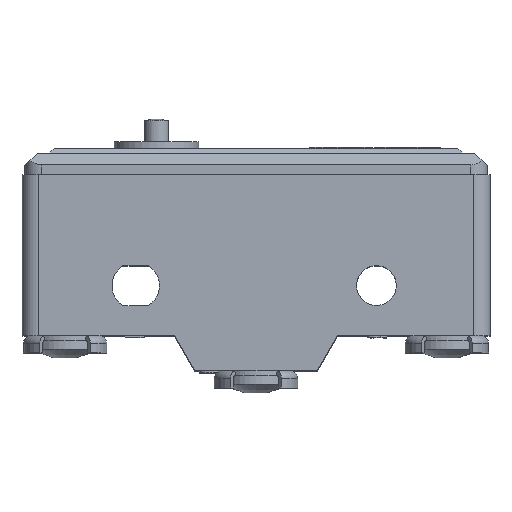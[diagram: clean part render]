
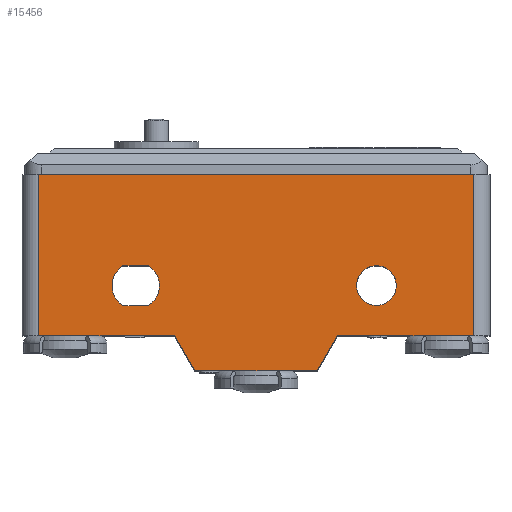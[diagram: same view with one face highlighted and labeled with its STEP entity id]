
A CAD part, top view. The second image highlights one B-rep face of the part: STEP entity #15456.
In plain terms, the highlighted planar face has unit normal (0, 0, 1).
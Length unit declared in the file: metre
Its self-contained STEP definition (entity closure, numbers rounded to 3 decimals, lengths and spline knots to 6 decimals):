
#10482=CARTESIAN_POINT('',(0.005537,-0.008608,0.05825));
#10483=VERTEX_POINT('',#10482);
#10486=CARTESIAN_POINT('',(0.003401,-0.012308,0.05825));
#10487=DIRECTION('',(0.5,0.866,0.));
#10488=VECTOR('',#10487,1.);
#10489=LINE('',#10486,#10488);
#10490=CARTESIAN_POINT('',(0.003401,-0.012308,0.05825));
#10491=VERTEX_POINT('',#10490);
#10492=EDGE_CURVE('',#10491,#10483,#10489,.T.);
#11550=CARTESIAN_POINT('',(-0.009527,-0.012308,0.05825));
#11551=VERTEX_POINT('',#11550);
#11554=CARTESIAN_POINT('',(-0.011663,-0.008608,0.05825));
#11555=DIRECTION('',(0.5,-0.866,0.));
#11556=VECTOR('',#11555,1.);
#11557=LINE('',#11554,#11556);
#11558=CARTESIAN_POINT('',(-0.011663,-0.008608,0.05825));
#11559=VERTEX_POINT('',#11558);
#11560=EDGE_CURVE('',#11559,#11551,#11557,.T.);
#11637=CARTESIAN_POINT('',(-0.026013,0.008392,0.05825));
#11638=VERTEX_POINT('',#11637);
#11647=CARTESIAN_POINT('',(-0.026013,-0.008608,0.05825));
#11648=VERTEX_POINT('',#11647);
#11651=CARTESIAN_POINT('',(-0.026013,-0.004008,0.05825));
#11652=DIRECTION('',(0.,-1.,0.));
#11653=VECTOR('',#11652,1.);
#11654=LINE('',#11651,#11653);
#11655=EDGE_CURVE('',#11638,#11648,#11654,.T.);
#13052=CARTESIAN_POINT('',(-0.027763,-0.008608,0.05825));
#13053=DIRECTION('',(1.,0.,0.));
#13054=VECTOR('',#13053,1.);
#13055=LINE('',#13052,#13054);
#13056=EDGE_CURVE('',#11648,#11559,#13055,.T.);
#13162=CARTESIAN_POINT('',(0.019887,-0.008608,0.05825));
#13163=VERTEX_POINT('',#13162);
#13181=CARTESIAN_POINT('',(0.019887,0.008392,0.05825));
#13182=VERTEX_POINT('',#13181);
#13185=CARTESIAN_POINT('',(0.019887,-0.004008,0.05825));
#13186=DIRECTION('',(0.,1.,0.));
#13187=VECTOR('',#13186,1.);
#13188=LINE('',#13185,#13187);
#13189=EDGE_CURVE('',#13163,#13182,#13188,.T.);
#13299=CARTESIAN_POINT('',(0.021637,0.008392,0.05825));
#13300=DIRECTION('',(-1.,0.,0.));
#13301=VECTOR('',#13300,1.);
#13302=LINE('',#13299,#13301);
#13303=EDGE_CURVE('',#13182,#11638,#13302,.T.);
#15241=CARTESIAN_POINT('',(0.005537,-0.008608,0.05825));
#15242=DIRECTION('',(1.,0.,0.));
#15243=VECTOR('',#15242,1.);
#15244=LINE('',#15241,#15243);
#15245=EDGE_CURVE('',#10483,#13163,#15244,.T.);
#15279=CARTESIAN_POINT('',(-0.017119,-0.001208,0.05825));
#15280=VERTEX_POINT('',#15279);
#15283=CARTESIAN_POINT('',(-0.015763,-0.003308,0.05825));
#15284=DIRECTION('',(0.,0.,1.));
#15285=DIRECTION('',(1.,0.,0.));
#15286=AXIS2_PLACEMENT_3D('',#15283,#15284,#15285);
#15287=CIRCLE('',#15286,0.0025);
#15288=CARTESIAN_POINT('',(-0.017119,-0.005408,0.05825));
#15289=VERTEX_POINT('',#15288);
#15290=EDGE_CURVE('',#15280,#15289,#15287,.T.);
#15323=CARTESIAN_POINT('',(-0.014406,-0.005408,0.05825));
#15324=DIRECTION('',(1.,0.,0.));
#15325=VECTOR('',#15324,1.);
#15326=LINE('',#15323,#15325);
#15327=CARTESIAN_POINT('',(-0.014406,-0.005408,0.05825));
#15328=VERTEX_POINT('',#15327);
#15329=EDGE_CURVE('',#15289,#15328,#15326,.T.);
#15353=CARTESIAN_POINT('',(-0.015763,-0.003308,0.05825));
#15354=DIRECTION('',(0.,0.,1.));
#15355=DIRECTION('',(1.,0.,0.));
#15356=AXIS2_PLACEMENT_3D('',#15353,#15354,#15355);
#15357=CIRCLE('',#15356,0.0025);
#15358=CARTESIAN_POINT('',(-0.014406,-0.001208,0.05825));
#15359=VERTEX_POINT('',#15358);
#15360=EDGE_CURVE('',#15328,#15359,#15357,.T.);
#15395=CARTESIAN_POINT('',(-0.014406,-0.001208,0.05825));
#15396=DIRECTION('',(-1.,0.,0.));
#15397=VECTOR('',#15396,1.);
#15398=LINE('',#15395,#15397);
#15399=EDGE_CURVE('',#15359,#15280,#15398,.T.);
#15419=CARTESIAN_POINT('',(0.010277,-0.004008,0.05825));
#15420=DIRECTION('',(0.,0.,-1.));
#15421=DIRECTION('',(-1.,0.,0.));
#15422=AXIS2_PLACEMENT_3D('',#15419,#15420,#15421);
#15423=PLANE('',#15422);
#15424=ORIENTED_EDGE('',*,*,#15399,.F.);
#15425=ORIENTED_EDGE('',*,*,#15360,.F.);
#15426=ORIENTED_EDGE('',*,*,#15329,.F.);
#15427=ORIENTED_EDGE('',*,*,#15290,.F.);
#15428=EDGE_LOOP('',(#15424,#15425,#15426,#15427));
#15429=FACE_BOUND('',#15428,.T.);
#15430=CARTESIAN_POINT('',(0.009637,-0.003308,0.05825));
#15431=DIRECTION('',(0.,0.,1.));
#15432=DIRECTION('',(1.,0.,0.));
#15433=AXIS2_PLACEMENT_3D('',#15430,#15431,#15432);
#15434=CIRCLE('',#15433,0.0021);
#15435=CARTESIAN_POINT('',(0.007537,-0.003308,0.05825));
#15436=VERTEX_POINT('',#15435);
#15437=EDGE_CURVE('',#15436,#15436,#15434,.T.);
#15438=ORIENTED_EDGE('',*,*,#15437,.F.);
#15439=EDGE_LOOP('',(#15438));
#15440=FACE_BOUND('',#15439,.T.);
#15441=ORIENTED_EDGE('',*,*,#15245,.T.);
#15442=ORIENTED_EDGE('',*,*,#13189,.T.);
#15443=ORIENTED_EDGE('',*,*,#13303,.T.);
#15444=ORIENTED_EDGE('',*,*,#11655,.T.);
#15445=ORIENTED_EDGE('',*,*,#13056,.T.);
#15446=ORIENTED_EDGE('',*,*,#11560,.T.);
#15447=CARTESIAN_POINT('',(-0.009527,-0.012308,0.05825));
#15448=DIRECTION('',(1.,0.,0.));
#15449=VECTOR('',#15448,1.);
#15450=LINE('',#15447,#15449);
#15451=EDGE_CURVE('',#11551,#10491,#15450,.T.);
#15452=ORIENTED_EDGE('',*,*,#15451,.T.);
#15453=ORIENTED_EDGE('',*,*,#10492,.T.);
#15454=EDGE_LOOP('',(#15441,#15442,#15443,#15444,#15445,#15446,#15452,#15453));
#15455=FACE_BOUND('',#15454,.T.);
#15456=ADVANCED_FACE('',(#15429,#15440,#15455),#15423,.F.);
